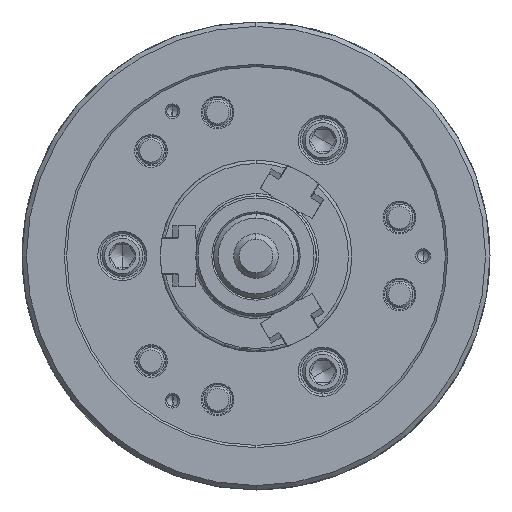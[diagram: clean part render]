
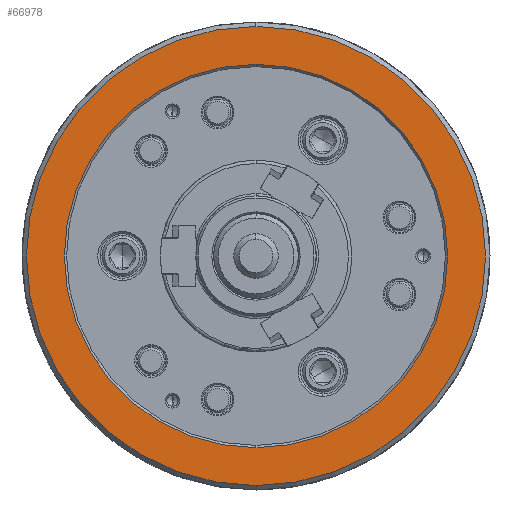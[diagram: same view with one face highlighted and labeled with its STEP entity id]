
A CAD part, left-side view. The second image highlights one B-rep face of the part: STEP entity #66978.
In plain terms, the highlighted planar face has unit normal (-1, 0, 0).
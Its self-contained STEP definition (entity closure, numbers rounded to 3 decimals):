
#1264 = ORIENTED_EDGE ( 'NONE', *, *, #62559, .T. ) ;
#3465 = FACE_BOUND ( 'NONE', #28089, .T. ) ;
#4996 = AXIS2_PLACEMENT_3D ( 'NONE', #16252, #90565, #8065 ) ;
#5090 = CARTESIAN_POINT ( 'NONE',  ( -85., 0., 86. ) ) ;
#6053 = DIRECTION ( 'NONE',  ( 0., 0., -1. ) ) ;
#8065 = DIRECTION ( 'NONE',  ( 0., 0., -1. ) ) ;
#8485 = EDGE_CURVE ( 'NONE', #106387, #61335, #20596, .T. ) ;
#10397 = CARTESIAN_POINT ( 'NONE',  ( -85., 0., 103. ) ) ;
#16252 = CARTESIAN_POINT ( 'NONE',  ( -85., 0., 0. ) ) ;
#17944 = DIRECTION ( 'NONE',  ( 1., 0., 0. ) ) ;
#19859 = CARTESIAN_POINT ( 'NONE',  ( -85., -103., 0. ) ) ;
#20499 = AXIS2_PLACEMENT_3D ( 'NONE', #19859, #86548, #45539 ) ;
#20596 = CIRCLE ( 'NONE', #106165, 103. ) ;
#28089 = EDGE_LOOP ( 'NONE', ( #1264, #55843 ) ) ;
#32744 = DIRECTION ( 'NONE',  ( 0., 0., -1. ) ) ;
#35349 = VERTEX_POINT ( 'NONE', #51353 ) ;
#40937 = CARTESIAN_POINT ( 'NONE',  ( -85., 0., 0. ) ) ;
#44468 = FACE_OUTER_BOUND ( 'NONE', #57853, .T. ) ;
#45539 = DIRECTION ( 'NONE',  ( 0., 0., -1. ) ) ;
#51353 = CARTESIAN_POINT ( 'NONE',  ( -85., 0., -86. ) ) ;
#55422 = EDGE_CURVE ( 'NONE', #61335, #106387, #100416, .T. ) ;
#55843 = ORIENTED_EDGE ( 'NONE', *, *, #68205, .T. ) ;
#57853 = EDGE_LOOP ( 'NONE', ( #107256, #102249 ) ) ;
#61335 = VERTEX_POINT ( 'NONE', #10397 ) ;
#62559 = EDGE_CURVE ( 'NONE', #81916, #35349, #97579, .T. ) ;
#66978 = ADVANCED_FACE ( 'NONE', ( #44468, #3465 ), #94746, .F. ) ;
#68205 = EDGE_CURVE ( 'NONE', #35349, #81916, #95723, .T. ) ;
#72476 = AXIS2_PLACEMENT_3D ( 'NONE', #87499, #80364, #78760 ) ;
#76647 = AXIS2_PLACEMENT_3D ( 'NONE', #40937, #17944, #32744 ) ;
#78760 = DIRECTION ( 'NONE',  ( 0., 0., -1. ) ) ;
#80364 = DIRECTION ( 'NONE',  ( 1., 0., 0. ) ) ;
#80911 = CARTESIAN_POINT ( 'NONE',  ( -85., 0., 0. ) ) ;
#81916 = VERTEX_POINT ( 'NONE', #5090 ) ;
#83783 = CARTESIAN_POINT ( 'NONE',  ( -85., 0., -103. ) ) ;
#86548 = DIRECTION ( 'NONE',  ( 1., 0., 0. ) ) ;
#87499 = CARTESIAN_POINT ( 'NONE',  ( -85., 0., 0. ) ) ;
#90565 = DIRECTION ( 'NONE',  ( 1., 0., 0. ) ) ;
#94746 = PLANE ( 'NONE',  #20499 ) ;
#95723 = CIRCLE ( 'NONE', #4996, 86. ) ;
#97579 = CIRCLE ( 'NONE', #76647, 86. ) ;
#100416 = CIRCLE ( 'NONE', #72476, 103. ) ;
#102249 = ORIENTED_EDGE ( 'NONE', *, *, #55422, .F. ) ;
#104444 = DIRECTION ( 'NONE',  ( 1., 0., 0. ) ) ;
#106165 = AXIS2_PLACEMENT_3D ( 'NONE', #80911, #104444, #6053 ) ;
#106387 = VERTEX_POINT ( 'NONE', #83783 ) ;
#107256 = ORIENTED_EDGE ( 'NONE', *, *, #8485, .F. ) ;
